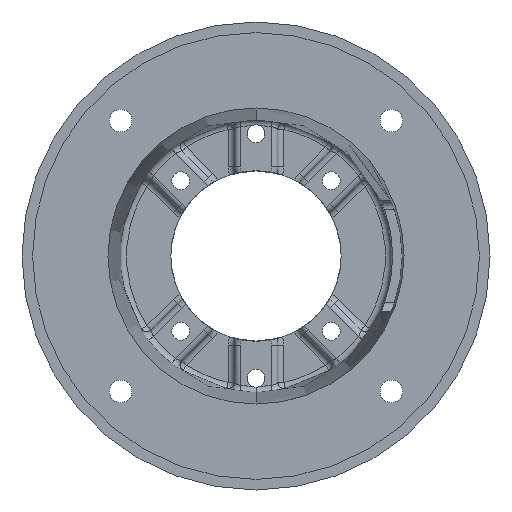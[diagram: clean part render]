
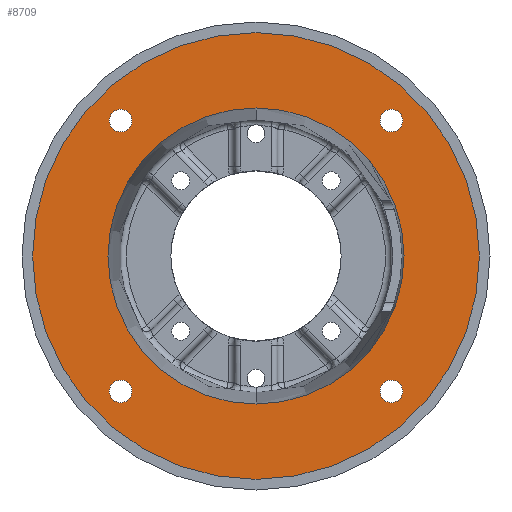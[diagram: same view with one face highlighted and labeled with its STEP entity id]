
A CAD part, front view. The second image highlights one B-rep face of the part: STEP entity #8709.
In plain terms, the highlighted planar face has unit normal (0, -1, 0).
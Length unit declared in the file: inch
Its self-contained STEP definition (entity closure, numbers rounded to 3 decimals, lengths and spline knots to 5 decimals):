
#382 = EDGE_CURVE ( 'NONE', #6582, #5381, #10753, .T. ) ;
#4053 = DIRECTION ( 'NONE',  ( 0., -1., 0. ) ) ;
#4054 = CARTESIAN_POINT ( 'NONE',  ( -3.18198, 0.18, -3.18198 ) ) ;
#4055 = AXIS2_PLACEMENT_3D ( 'NONE', #4054, #4053, #4120 ) ;
#4056 = CIRCLE ( 'NONE', #4055, 0.26562 ) ;
#4057 = CARTESIAN_POINT ( 'NONE',  ( 0., 0.18, 0. ) ) ;
#4058 = DIRECTION ( 'NONE',  ( 0., 0., -1. ) ) ;
#4059 = DIRECTION ( 'NONE',  ( 0., -1., 0. ) ) ;
#4060 = AXIS2_PLACEMENT_3D ( 'NONE', #4065, #4059, #4058 ) ;
#4061 = CIRCLE ( 'NONE', #4060, 0.26562 ) ;
#4065 = CARTESIAN_POINT ( 'NONE',  ( 3.18198, 0.18, -3.18198 ) ) ;
#4095 = DIRECTION ( 'NONE',  ( 0., 0., -1. ) ) ;
#4096 = DIRECTION ( 'NONE',  ( 0., -1., 0. ) ) ;
#4097 = CARTESIAN_POINT ( 'NONE',  ( 3.18198, 0.18, 3.18198 ) ) ;
#4098 = AXIS2_PLACEMENT_3D ( 'NONE', #4097, #4096, #4095 ) ;
#4099 = CIRCLE ( 'NONE', #4098, 0.26562 ) ;
#4100 = DIRECTION ( 'NONE',  ( 0., 0., -1. ) ) ;
#4101 = DIRECTION ( 'NONE',  ( 0., -1., 0. ) ) ;
#4102 = CARTESIAN_POINT ( 'NONE',  ( -3.18198, 0.18, 3.18198 ) ) ;
#4103 = AXIS2_PLACEMENT_3D ( 'NONE', #4102, #4101, #4100 ) ;
#4104 = CIRCLE ( 'NONE', #4103, 0.26562 ) ;
#4105 = DIRECTION ( 'NONE',  ( 0., 0., -1. ) ) ;
#4106 = DIRECTION ( 'NONE',  ( 0., -1., 0. ) ) ;
#4107 = CARTESIAN_POINT ( 'NONE',  ( 0., 0.18, 0. ) ) ;
#4108 = AXIS2_PLACEMENT_3D ( 'NONE', #4107, #4106, #4105 ) ;
#4109 = PLANE ( 'NONE',  #4108 ) ;
#4110 = FACE_BOUND ( 'NONE', #8704, .T. ) ;
#4111 = FACE_OUTER_BOUND ( 'NONE', #8700, .T. ) ;
#4112 = FACE_BOUND ( 'NONE', #8696, .T. ) ;
#4113 = FACE_BOUND ( 'NONE', #8718, .T. ) ;
#4114 = FACE_BOUND ( 'NONE', #8714, .T. ) ;
#4115 = FACE_BOUND ( 'NONE', #8710, .T. ) ;
#4116 = DIRECTION ( 'NONE',  ( 0., 0., -1. ) ) ;
#4117 = DIRECTION ( 'NONE',  ( 0., -1., 0. ) ) ;
#4118 = AXIS2_PLACEMENT_3D ( 'NONE', #4057, #4117, #4116 ) ;
#4119 = CIRCLE ( 'NONE', #4118, 5.2505 ) ;
#4120 = DIRECTION ( 'NONE',  ( 0., 0., -1. ) ) ;
#4816 = DIRECTION ( 'NONE',  ( 0., 0., -1. ) ) ;
#4828 = CARTESIAN_POINT ( 'NONE',  ( -3.18198, 0.18, 2.91636 ) ) ;
#4829 = DIRECTION ( 'NONE',  ( 0., 0., -1. ) ) ;
#4830 = DIRECTION ( 'NONE',  ( 0., -1., 0. ) ) ;
#4831 = CARTESIAN_POINT ( 'NONE',  ( -3.18198, 0.18, 3.18198 ) ) ;
#4832 = AXIS2_PLACEMENT_3D ( 'NONE', #4831, #4830, #4829 ) ;
#4833 = CIRCLE ( 'NONE', #4832, 0.26562 ) ;
#4834 = CARTESIAN_POINT ( 'NONE',  ( -3.18198, 0.18, 3.44761 ) ) ;
#4871 = CARTESIAN_POINT ( 'NONE',  ( 3.18198, 0.18, -3.44761 ) ) ;
#4872 = DIRECTION ( 'NONE',  ( 0., 0., -1. ) ) ;
#4873 = DIRECTION ( 'NONE',  ( 0., -1., 0. ) ) ;
#4874 = CARTESIAN_POINT ( 'NONE',  ( 3.18198, 0.18, -3.18198 ) ) ;
#4875 = AXIS2_PLACEMENT_3D ( 'NONE', #4874, #4873, #4872 ) ;
#4876 = CIRCLE ( 'NONE', #4875, 0.26562 ) ;
#4878 = CARTESIAN_POINT ( 'NONE',  ( 3.18198, 0.18, -2.91636 ) ) ;
#4879 = CARTESIAN_POINT ( 'NONE',  ( 3.18198, 0.18, 3.44761 ) ) ;
#4897 = CARTESIAN_POINT ( 'NONE',  ( 0., 0.18, -5.2505 ) ) ;
#4898 = CARTESIAN_POINT ( 'NONE',  ( 0., 0.18, 5.2505 ) ) ;
#4915 = CARTESIAN_POINT ( 'NONE',  ( -3.18198, 0.18, -2.91636 ) ) ;
#5058 = CARTESIAN_POINT ( 'NONE',  ( 3.18198, 0.18, 3.18198 ) ) ;
#5079 = DIRECTION ( 'NONE',  ( 0., -1., 0. ) ) ;
#5080 = CARTESIAN_POINT ( 'NONE',  ( -3.18198, 0.18, -3.18198 ) ) ;
#5081 = AXIS2_PLACEMENT_3D ( 'NONE', #5080, #5079, #4816 ) ;
#5082 = CIRCLE ( 'NONE', #5081, 0.26562 ) ;
#5105 = CARTESIAN_POINT ( 'NONE',  ( 3.18198, 0.18, 2.91636 ) ) ;
#5106 = DIRECTION ( 'NONE',  ( 0., 0., -1. ) ) ;
#5107 = DIRECTION ( 'NONE',  ( 0., -1., 0. ) ) ;
#5108 = AXIS2_PLACEMENT_3D ( 'NONE', #5058, #5107, #5106 ) ;
#5109 = CIRCLE ( 'NONE', #5108, 0.26562 ) ;
#5119 = DIRECTION ( 'NONE',  ( 0., 0., -1. ) ) ;
#5121 = DIRECTION ( 'NONE',  ( 0., -1., 0. ) ) ;
#5122 = AXIS2_PLACEMENT_3D ( 'NONE', #5129, #5121, #5119 ) ;
#5123 = CIRCLE ( 'NONE', #5122, 5.2505 ) ;
#5129 = CARTESIAN_POINT ( 'NONE',  ( 0., 0.18, 0. ) ) ;
#5135 = CARTESIAN_POINT ( 'NONE',  ( -3.18198, 0.18, -3.44761 ) ) ;
#5381 = VERTEX_POINT ( 'NONE', #11801 ) ;
#5406 = EDGE_CURVE ( 'NONE', #5381, #6582, #11774, .T. ) ;
#6582 = VERTEX_POINT ( 'NONE', #11958 ) ;
#8693 = ORIENTED_EDGE ( 'NONE', *, *, #8694, .F. ) ;
#8694 = EDGE_CURVE ( 'NONE', #9078, #9075, #4061, .T. ) ;
#8695 = ORIENTED_EDGE ( 'NONE', *, *, #9077, .F. ) ;
#8696 = EDGE_LOOP ( 'NONE', ( #8697, #8699 ) ) ;
#8697 = ORIENTED_EDGE ( 'NONE', *, *, #8698, .F. ) ;
#8698 = EDGE_CURVE ( 'NONE', #9176, #9089, #4056, .T. ) ;
#8699 = ORIENTED_EDGE ( 'NONE', *, *, #9175, .F. ) ;
#8700 = EDGE_LOOP ( 'NONE', ( #8701, #8703 ) ) ;
#8701 = ORIENTED_EDGE ( 'NONE', *, *, #8702, .T. ) ;
#8702 = EDGE_CURVE ( 'NONE', #9099, #9098, #4119, .T. ) ;
#8703 = ORIENTED_EDGE ( 'NONE', *, *, #9182, .T. ) ;
#8704 = EDGE_LOOP ( 'NONE', ( #8705, #8759 ) ) ;
#8705 = ORIENTED_EDGE ( 'NONE', *, *, #5406, .T. ) ;
#8709 = ADVANCED_FACE ( 'NONE', ( #4115, #4114, #4113, #4112, #4111, #4110 ), #4109, .T. ) ;
#8710 = EDGE_LOOP ( 'NONE', ( #8711, #8713 ) ) ;
#8711 = ORIENTED_EDGE ( 'NONE', *, *, #8712, .F. ) ;
#8712 = EDGE_CURVE ( 'NONE', #9065, #9062, #4104, .T. ) ;
#8713 = ORIENTED_EDGE ( 'NONE', *, *, #9064, .F. ) ;
#8714 = EDGE_LOOP ( 'NONE', ( #8715, #8717 ) ) ;
#8715 = ORIENTED_EDGE ( 'NONE', *, *, #8716, .F. ) ;
#8716 = EDGE_CURVE ( 'NONE', #9163, #9074, #4099, .T. ) ;
#8717 = ORIENTED_EDGE ( 'NONE', *, *, #9162, .F. ) ;
#8718 = EDGE_LOOP ( 'NONE', ( #8693, #8695 ) ) ;
#8759 = ORIENTED_EDGE ( 'NONE', *, *, #382, .T. ) ;
#9062 = VERTEX_POINT ( 'NONE', #4834 ) ;
#9064 = EDGE_CURVE ( 'NONE', #9062, #9065, #4833, .T. ) ;
#9065 = VERTEX_POINT ( 'NONE', #4828 ) ;
#9074 = VERTEX_POINT ( 'NONE', #4879 ) ;
#9075 = VERTEX_POINT ( 'NONE', #4878 ) ;
#9077 = EDGE_CURVE ( 'NONE', #9075, #9078, #4876, .T. ) ;
#9078 = VERTEX_POINT ( 'NONE', #4871 ) ;
#9089 = VERTEX_POINT ( 'NONE', #4915 ) ;
#9098 = VERTEX_POINT ( 'NONE', #4898 ) ;
#9099 = VERTEX_POINT ( 'NONE', #4897 ) ;
#9162 = EDGE_CURVE ( 'NONE', #9074, #9163, #5109, .T. ) ;
#9163 = VERTEX_POINT ( 'NONE', #5105 ) ;
#9175 = EDGE_CURVE ( 'NONE', #9089, #9176, #5082, .T. ) ;
#9176 = VERTEX_POINT ( 'NONE', #5135 ) ;
#9182 = EDGE_CURVE ( 'NONE', #9098, #9099, #5123, .T. ) ;
#10750 = DIRECTION ( 'NONE',  ( 0., 0., -1. ) ) ;
#10751 = DIRECTION ( 'NONE',  ( 0., 1., 0. ) ) ;
#10752 = AXIS2_PLACEMENT_3D ( 'NONE', #10758, #10751, #10750 ) ;
#10753 = CIRCLE ( 'NONE', #10752, 3.47973 ) ;
#10758 = CARTESIAN_POINT ( 'NONE',  ( 0., 0.18, 0. ) ) ;
#11774 = CIRCLE ( 'NONE', #11796, 3.47973 ) ;
#11793 = DIRECTION ( 'NONE',  ( 0., 0., -1. ) ) ;
#11794 = DIRECTION ( 'NONE',  ( 0., 1., 0. ) ) ;
#11795 = CARTESIAN_POINT ( 'NONE',  ( 0., 0.18, 0. ) ) ;
#11796 = AXIS2_PLACEMENT_3D ( 'NONE', #11795, #11794, #11793 ) ;
#11801 = CARTESIAN_POINT ( 'NONE',  ( 0., 0.18, -3.47973 ) ) ;
#11958 = CARTESIAN_POINT ( 'NONE',  ( 0., 0.18, 3.47973 ) ) ;
